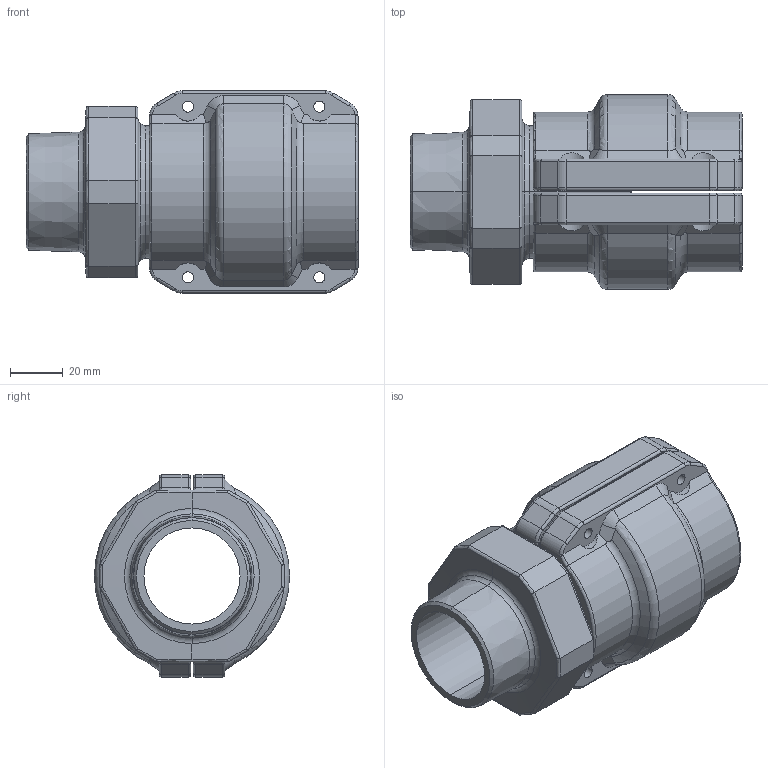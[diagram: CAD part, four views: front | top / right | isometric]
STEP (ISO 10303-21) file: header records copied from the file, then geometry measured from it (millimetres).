
FILE_DESCRIPTION((''),'2;1');
FILE_NAME('AU15541799_ASM_2_ASM','2017-05-16T',('Administrator'),(''),'PRO/ENGINEER BY PARAMETRIC TECHNOLOGY CORPORATION, 2009360','PRO/ENGINEER BY PARAMETRIC TECHNOLOGY CORPORATION, 2009360','');
FILE_SCHEMA(('AUTOMOTIVE_DESIGN_CC2 { 1 2 10303 214 -1 1 5 2 }'));
Length unit declared in the file: millimetre
Products named in the file (5): AU15541700_1; 201550020001_1; 201550020000_1; 2015500200_ASM_1_ASM; AU15541799_ASM_2_ASM
Assembly tree (4 placements, depth 3):
  AU15541799_ASM_2_ASM
    AU15541700_1
    2015500200_ASM_1_ASM
      201550020001_1
      201550020000_1
Bounding box: 126.42 x 74.3 x 77 mm (x, y, z)
Volume: 237364.7 mm3; surface area: 66586.2 mm2
Topology: 3 solids, 3 shells, 273 faces, 690 edges, 416 vertices
Faces by surface type: cylinder 108, torus 60, plane 51, bspline 36, cone 10, sphere 8
Entity records: 11580 total; most frequent: CARTESIAN_POINT 3079, ORIENTED_EDGE 1364, DIRECTION 1306, PRESENTATION_STYLE_ASSIGNMENT 685, STYLED_ITEM 685, CURVE_STYLE 682, EDGE_CURVE 682, AXIS2_PLACEMENT_3D 538
